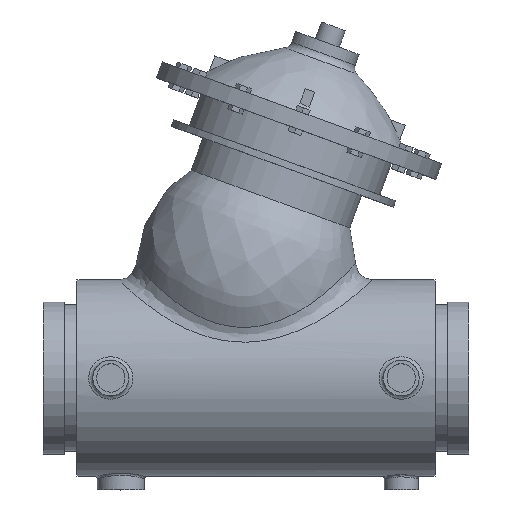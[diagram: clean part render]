
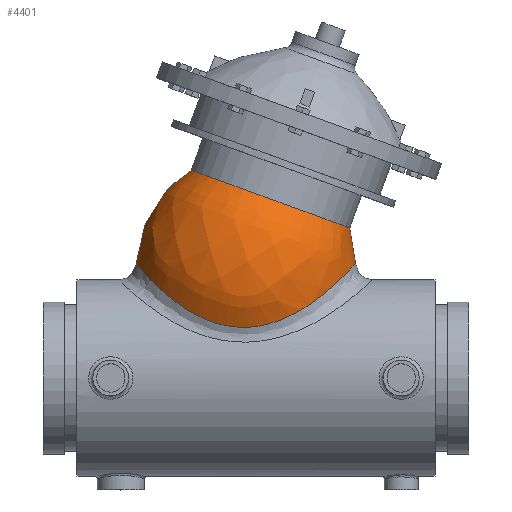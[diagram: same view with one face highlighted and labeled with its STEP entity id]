
A CAD part, top view. The second image highlights one B-rep face of the part: STEP entity #4401.
In plain terms, the highlighted free-form (B-spline) face has degree [2, 2] with [3, 9] control points.
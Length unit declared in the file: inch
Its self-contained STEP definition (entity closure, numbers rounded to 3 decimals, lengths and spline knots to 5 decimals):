
#252=(
BOUNDED_CURVE()
B_SPLINE_CURVE(2,(#6564,#6565,#6566),.UNSPECIFIED.,.F.,.F.)
B_SPLINE_CURVE_WITH_KNOTS((3,3),(-0.66139,0.54975),
 .UNSPECIFIED.)
CURVE()
GEOMETRIC_REPRESENTATION_ITEM()
RATIONAL_B_SPLINE_CURVE((1.,0.82,0.996))
REPRESENTATION_ITEM('')
);
#255=(
BOUNDED_SURFACE()
B_SPLINE_SURFACE(2,2,((#6533,#6534,#6535,#6536,#6537,#6538,#6539,#6540,
#6541),(#6542,#6543,#6544,#6545,#6546,#6547,#6548,#6549,#6550),(#6551,#6552,
#6553,#6554,#6555,#6556,#6557,#6558,#6559)),.UNSPECIFIED.,.F.,.T.,.F.)
B_SPLINE_SURFACE_WITH_KNOTS((3,3),(3,2,2,2,3),(-0.56317,0.66139),
(-3.14159,-1.5708,0.,1.5708,3.14159),
 .UNSPECIFIED.)
GEOMETRIC_REPRESENTATION_ITEM()
RATIONAL_B_SPLINE_SURFACE(((1.,0.707,1.,0.707,1.,
0.707,1.,0.707,1.),(0.818,0.579,
0.818,0.579,0.818,0.579,0.818,
0.579,0.818),(1.,0.707,1.,0.707,
1.,0.707,1.,0.707,1.)))
REPRESENTATION_ITEM('')
SURFACE()
);
#1292=FACE_OUTER_BOUND('',#1535,.T.);
#1535=EDGE_LOOP('',(#2972,#2973,#2974,#2975,#2976,#2977));
#1813=B_SPLINE_CURVE_WITH_KNOTS('',3,(#6316,#6317,#6318,#6319,#6320,#6321,
#6322,#6323,#6324,#6325,#6326,#6327,#6328,#6329,#6330,#6331,#6332,#6333,
#6334,#6335,#6336,#6337,#6338,#6339,#6340,#6341,#6342,#6343,#6344,#6345),
 .UNSPECIFIED.,.F.,.F.,(4,1,1,1,1,1,1,1,1,1,1,1,1,1,1,1,1,1,1,1,1,1,1,1,
1,1,1,4),(0.,1.80834,3.61668,5.42501,7.23335,
9.04169,10.85003,12.65836,14.4667,16.87782,
18.08338,19.28894,20.49449,21.70005,24.11117,
26.52229,28.9334,29.53618,30.13896,30.74174,
31.34452,32.55008,33.75564,36.16675,38.57787,
39.78343,40.98899,42.49162),.UNSPECIFIED.);
#1814=B_SPLINE_CURVE_WITH_KNOTS('',3,(#6346,#6347,#6348,#6349,#6350,#6351,
#6352,#6353),.UNSPECIFIED.,.F.,.F.,(4,1,1,1,1,4),(42.49162,43.40011,
45.20844,47.01678,48.82512,50.63346),
 .UNSPECIFIED.);
#1856=CIRCLE('',#4663,2.5);
#1857=CIRCLE('',#4664,2.5);
#1932=VERTEX_POINT('',#6313);
#1933=VERTEX_POINT('',#6315);
#1948=VERTEX_POINT('',#6560);
#1949=VERTEX_POINT('',#6561);
#2344=EDGE_CURVE('',#1932,#1933,#1813,.T.);
#2345=EDGE_CURVE('',#1933,#1932,#1814,.T.);
#2364=EDGE_CURVE('',#1948,#1949,#1856,.T.);
#2365=EDGE_CURVE('',#1949,#1948,#1857,.T.);
#2366=EDGE_CURVE('',#1949,#1933,#252,.T.);
#2972=ORIENTED_EDGE('',*,*,#2364,.F.);
#2973=ORIENTED_EDGE('',*,*,#2365,.F.);
#2974=ORIENTED_EDGE('',*,*,#2366,.T.);
#2975=ORIENTED_EDGE('',*,*,#2344,.F.);
#2976=ORIENTED_EDGE('',*,*,#2345,.F.);
#2977=ORIENTED_EDGE('',*,*,#2366,.F.);
#4401=ADVANCED_FACE('',(#1292),#255,.F.);
#4663=AXIS2_PLACEMENT_3D('',#6562,#4996,#4997);
#4664=AXIS2_PLACEMENT_3D('',#6563,#4998,#4999);
#4996=DIRECTION('center_axis',(0.342,0.94,0.));
#4997=DIRECTION('ref_axis',(0.94,-0.342,0.));
#4998=DIRECTION('center_axis',(0.342,0.94,0.));
#4999=DIRECTION('ref_axis',(0.94,-0.342,0.));
#6313=CARTESIAN_POINT('',(2.0781,2.55082,-2.06627));
#6315=CARTESIAN_POINT('',(-0.93244,1.55917,-2.72088));
#6316=CARTESIAN_POINT('Ctrl Pts',(2.0781,2.55082,-2.06627));
#6317=CARTESIAN_POINT('Ctrl Pts',(2.2402,2.68756,-1.92832));
#6318=CARTESIAN_POINT('Ctrl Pts',(2.52759,2.95553,-1.60323));
#6319=CARTESIAN_POINT('Ctrl Pts',(2.82686,3.26992,-0.97262));
#6320=CARTESIAN_POINT('Ctrl Pts',(2.96836,3.42867,-0.23682));
#6321=CARTESIAN_POINT('Ctrl Pts',(2.93428,3.3898,0.52736));
#6322=CARTESIAN_POINT('Ctrl Pts',(2.72925,3.16426,1.22992));
#6323=CARTESIAN_POINT('Ctrl Pts',(2.37653,2.80771,1.80805));
#6324=CARTESIAN_POINT('Ctrl Pts',(1.90078,2.39127,2.23828));
#6325=CARTESIAN_POINT('Ctrl Pts',(1.25704,1.93926,2.55712));
#6326=CARTESIAN_POINT('Ctrl Pts',(0.57059,1.62478,2.70064));
#6327=CARTESIAN_POINT('Ctrl Pts',(-0.092,1.49822,
2.74804));
#6328=CARTESIAN_POINT('Ctrl Pts',(-0.59774,1.49412,2.7477));
#6329=CARTESIAN_POINT('Ctrl Pts',(-1.09346,1.58296,2.71152));
#6330=CARTESIAN_POINT('Ctrl Pts',(-1.71864,1.80888,2.60901));
#6331=CARTESIAN_POINT('Ctrl Pts',(-2.40522,2.23978,2.35962));
#6332=CARTESIAN_POINT('Ctrl Pts',(-3.04309,2.81377,1.8074));
#6333=CARTESIAN_POINT('Ctrl Pts',(-3.35594,3.15525,1.19261));
#6334=CARTESIAN_POINT('Ctrl Pts',(-3.47946,3.29517,0.72397));
#6335=CARTESIAN_POINT('Ctrl Pts',(-3.52379,3.34634,0.4814));
#6336=CARTESIAN_POINT('Ctrl Pts',(-3.54998,3.37684,0.23262));
#6337=CARTESIAN_POINT('Ctrl Pts',(-3.56048,3.3892,-0.10296));
#6338=CARTESIAN_POINT('Ctrl Pts',(-3.52724,3.35009,-0.52152));
#6339=CARTESIAN_POINT('Ctrl Pts',(-3.37799,3.17876,-1.15763));
#6340=CARTESIAN_POINT('Ctrl Pts',(-3.02277,2.7934,-1.83345));
#6341=CARTESIAN_POINT('Ctrl Pts',(-2.48495,2.31375,-2.2847));
#6342=CARTESIAN_POINT('Ctrl Pts',(-1.96222,1.96274,-2.52069));
#6343=CARTESIAN_POINT('Ctrl Pts',(-1.49286,1.7182,-2.65179));
#6344=CARTESIAN_POINT('Ctrl Pts',(-1.13579,1.60209,-2.70283));
#6345=CARTESIAN_POINT('Ctrl Pts',(-0.93233,1.55927,-2.72091));
#6346=CARTESIAN_POINT('Ctrl Pts',(-0.93233,1.55927,-2.72091));
#6347=CARTESIAN_POINT('Ctrl Pts',(-0.80933,1.53338,-2.73184));
#6348=CARTESIAN_POINT('Ctrl Pts',(-0.43564,1.47957,-2.75335));
#6349=CARTESIAN_POINT('Ctrl Pts',(0.2007,1.52486,-2.73999));
#6350=CARTESIAN_POINT('Ctrl Pts',(0.91764,1.76851,-2.63918));
#6351=CARTESIAN_POINT('Ctrl Pts',(1.55502,2.13509,-2.4311));
#6352=CARTESIAN_POINT('Ctrl Pts',(1.916,2.41408,-2.20421));
#6353=CARTESIAN_POINT('Ctrl Pts',(2.0781,2.55082,-2.06627));
#6533=CARTESIAN_POINT('Ctrl Pts',(-0.94537,1.52385,-2.69751));
#6534=CARTESIAN_POINT('Ctrl Pts',(-3.48019,2.44645,-2.69751));
#6535=CARTESIAN_POINT('Ctrl Pts',(-3.48019,2.44645,0.));
#6536=CARTESIAN_POINT('Ctrl Pts',(-3.48019,2.44645,2.69751));
#6537=CARTESIAN_POINT('Ctrl Pts',(-0.94537,1.52385,2.69751));
#6538=CARTESIAN_POINT('Ctrl Pts',(1.58946,0.60125,2.69751));
#6539=CARTESIAN_POINT('Ctrl Pts',(1.58946,0.60125,0.));
#6540=CARTESIAN_POINT('Ctrl Pts',(1.58946,0.60125,-2.69751));
#6541=CARTESIAN_POINT('Ctrl Pts',(-0.94537,1.52385,-2.69751));
#6542=CARTESIAN_POINT('Ctrl Pts',(-0.23448,3.477,-4.00981));
#6543=CARTESIAN_POINT('Ctrl Pts',(-4.00247,4.84844,-4.00981));
#6544=CARTESIAN_POINT('Ctrl Pts',(-4.00247,4.84844,0.));
#6545=CARTESIAN_POINT('Ctrl Pts',(-4.00247,4.84844,4.00981));
#6546=CARTESIAN_POINT('Ctrl Pts',(-0.23448,3.477,4.00981));
#6547=CARTESIAN_POINT('Ctrl Pts',(3.53352,2.10556,4.00981));
#6548=CARTESIAN_POINT('Ctrl Pts',(3.53352,2.10556,0.));
#6549=CARTESIAN_POINT('Ctrl Pts',(3.53352,2.10556,-4.00981));
#6550=CARTESIAN_POINT('Ctrl Pts',(-0.23448,3.477,-4.00981));
#6551=CARTESIAN_POINT('Ctrl Pts',(0.42897,5.29981,-2.5));
#6552=CARTESIAN_POINT('Ctrl Pts',(-1.92026,6.15486,-2.5));
#6553=CARTESIAN_POINT('Ctrl Pts',(-1.92026,6.15486,0.));
#6554=CARTESIAN_POINT('Ctrl Pts',(-1.92026,6.15486,2.5));
#6555=CARTESIAN_POINT('Ctrl Pts',(0.42897,5.29981,2.5));
#6556=CARTESIAN_POINT('Ctrl Pts',(2.7782,4.44476,2.5));
#6557=CARTESIAN_POINT('Ctrl Pts',(2.7782,4.44476,0.));
#6558=CARTESIAN_POINT('Ctrl Pts',(2.7782,4.44476,-2.5));
#6559=CARTESIAN_POINT('Ctrl Pts',(0.42897,5.29981,-2.5));
#6560=CARTESIAN_POINT('',(-1.92026,6.15486,0.));
#6561=CARTESIAN_POINT('',(0.42897,5.29981,-2.5));
#6562=CARTESIAN_POINT('Origin',(0.42897,5.29981,0.));
#6563=CARTESIAN_POINT('Origin',(0.42897,5.29981,0.));
#6564=CARTESIAN_POINT('Ctrl Pts',(0.42897,5.29981,-2.5));
#6565=CARTESIAN_POINT('Ctrl Pts',(-0.22561,3.50135,-3.98965));
#6566=CARTESIAN_POINT('Ctrl Pts',(-0.93254,1.55908,-2.72085));
